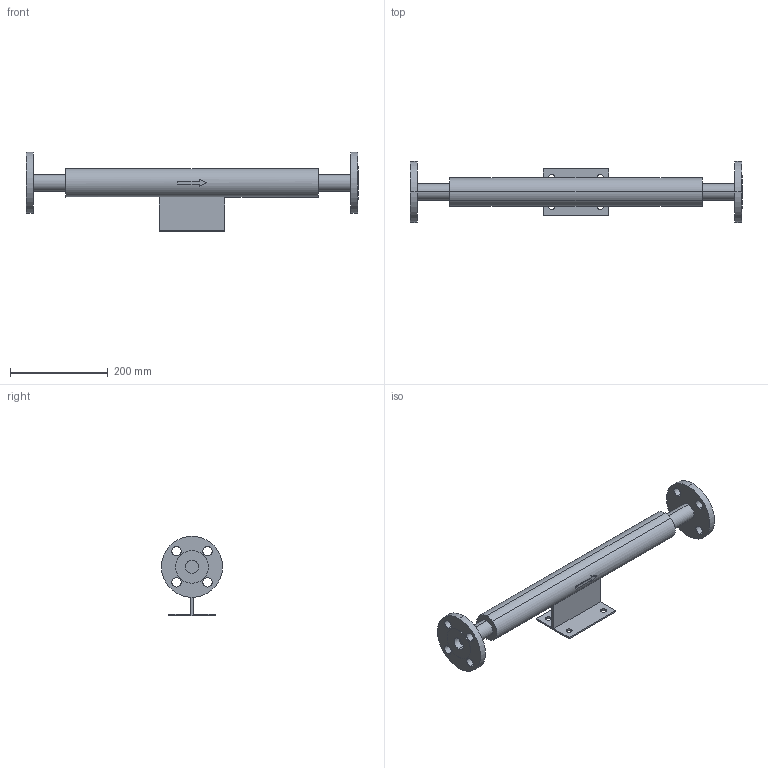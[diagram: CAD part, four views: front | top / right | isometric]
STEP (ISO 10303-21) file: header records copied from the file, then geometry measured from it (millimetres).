
FILE_DESCRIPTION( (''), '2;1');
FILE_NAME ('PC1276.11140.EB-2J 25A_1083.stp','2025-06-09T15:36:24',(''),(''),'spGate 20.6.3 (****-****-****-****)','','');
FILE_SCHEMA (('AUTOMOTIVE_DESIGN'));
Length unit declared in the file: millimetre
Bounding box: 680 x 125 x 162.5 mm (x, y, z)
Volume: 1897346.7 mm3; surface area: 220082 mm2
Topology: 1 solids, 1 shells, 77 faces, 194 edges, 130 vertices
Faces by surface type: cylinder 42, plane 35
Entity records: 3921 total; most frequent: CARTESIAN_POINT 451, DIRECTION 396, ORIENTED_EDGE 388, COLOUR_RGB 272, PRESENTATION_STYLE_ASSIGNMENT 272, STYLED_ITEM 272, EDGE_CURVE 194, DRAUGHTING_PRE_DEFINED_CURVE_FONT 194
